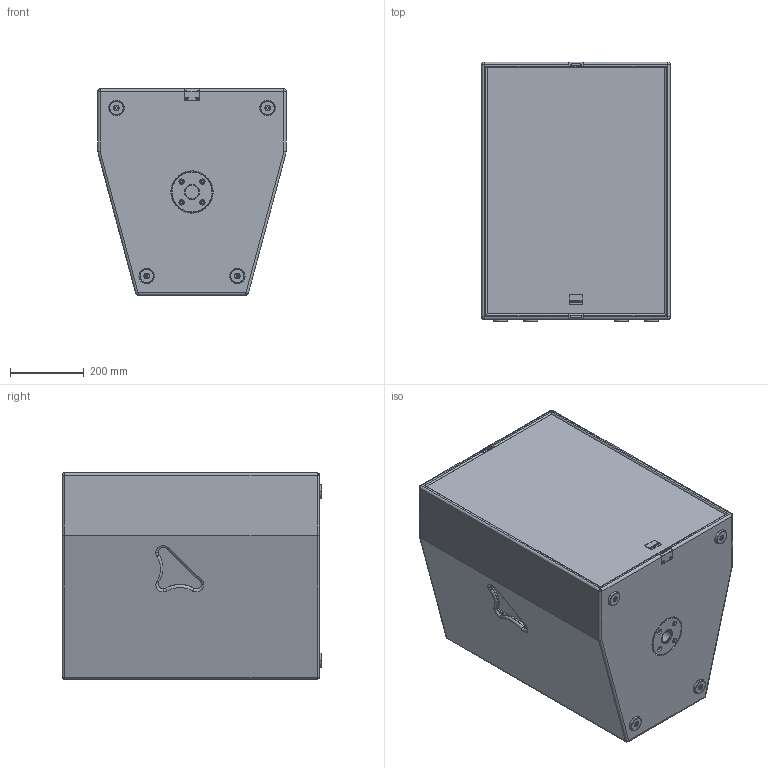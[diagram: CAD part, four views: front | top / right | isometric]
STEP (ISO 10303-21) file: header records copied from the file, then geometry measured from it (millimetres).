
FILE_DESCRIPTION (( 'STEP AP203' ), '1' );
FILE_NAME ('Seeburg_K5.STEP', '2012-10-16T11:59:25', ( 'Fabian' ), ( '' ), 'SwSTEP 2.0', 'SolidWorks 2009', '' );
FILE_SCHEMA (( 'CONFIG_CONTROL_DESIGN' ));
Length unit declared in the file: millimetre
Products named in the file (2): K5; Seeburg_K5
Assembly tree (1 placements, depth 2):
  Seeburg_K5
    K5
Bounding box: 512 x 704 x 560 mm (x, y, z)
Volume: 28269433.1 mm3; surface area: 3948833.5 mm2
Topology: 22 solids, 22 shells, 698 faces, 1766 edges, 1130 vertices
Faces by surface type: cylinder 278, plane 263, torus 78, cone 60, sphere 17, bspline 2
Entity records: 24135 total; most frequent: CARTESIAN_POINT 6764, DIRECTION 3753, ORIENTED_EDGE 3508, EDGE_CURVE 1754, AXIS2_PLACEMENT_3D 1423, VERTEX_POINT 1124, LINE 907, VECTOR 907
